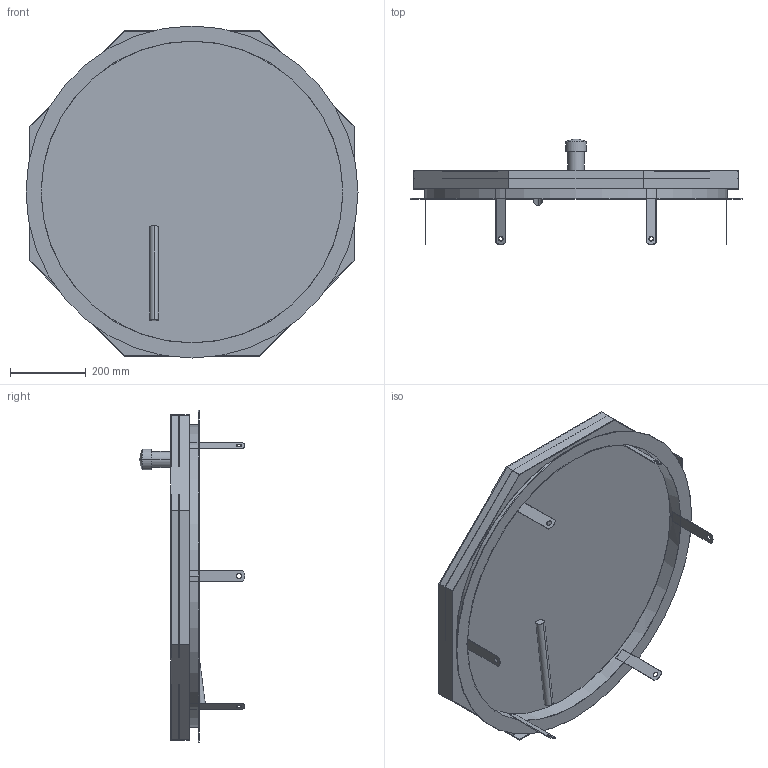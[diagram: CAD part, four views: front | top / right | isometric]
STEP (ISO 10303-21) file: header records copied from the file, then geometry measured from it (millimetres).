
FILE_DESCRIPTION((''),'2;1');
FILE_NAME('017_000107','2017-06-12T',('set'),('HUBER SE'),'PRO/ENGINEER BY PARAMETRIC TECHNOLOGY CORPORATION, 2015280','PRO/ENGINEER BY PARAMETRIC TECHNOLOGY CORPORATION, 2015280','');
FILE_SCHEMA(('CONFIG_CONTROL_DESIGN'));
Length unit declared in the file: millimetre
Products named in the file (1): 017_000107
Bounding box: 875 x 277.25 x 875 mm (x, y, z)
Volume: 2934987.7 mm3; surface area: 3185008.3 mm2
Topology: 3 solids, 4 shells, 97 faces, 379 edges, 313 vertices
Faces by surface type: plane 65, cylinder 30, sphere 2
Entity records: 3828 total; most frequent: CARTESIAN_POINT 792, DIRECTION 614, ORIENTED_EDGE 508, VECTOR 254, LINE 254, EDGE_CURVE 254, AXIS2_PLACEMENT_3D 180, VERTEX_POINT 169
